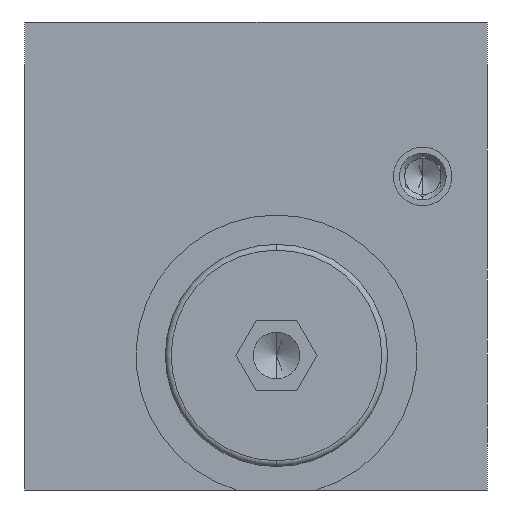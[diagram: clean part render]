
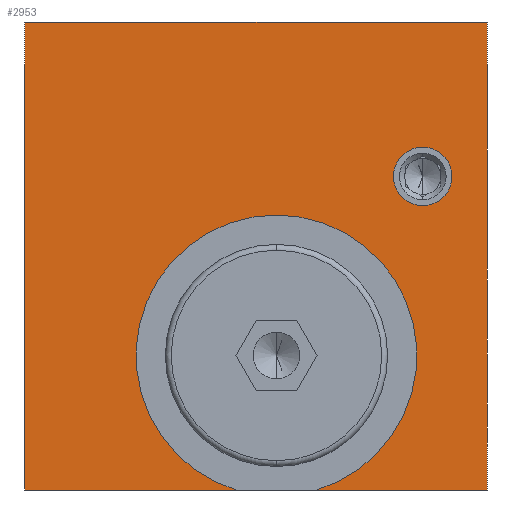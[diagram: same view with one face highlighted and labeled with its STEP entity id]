
A CAD part, left-side view. The second image highlights one B-rep face of the part: STEP entity #2953.
In plain terms, the highlighted planar face has unit normal (-1, 0, 0).
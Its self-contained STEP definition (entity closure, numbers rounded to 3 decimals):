
#114 = FACE_BOUND ( 'NONE', #6787, .T. ) ;
#121 = CARTESIAN_POINT ( 'NONE',  ( 0., 19.75, -20. ) ) ;
#379 = CARTESIAN_POINT ( 'NONE',  ( 0., 1.678, -20. ) ) ;
#463 = VECTOR ( 'NONE', #15114, 1000. ) ;
#649 = CIRCLE ( 'NONE', #9243, 12. ) ;
#829 = CARTESIAN_POINT ( 'NONE',  ( 0., -19.75, -20. ) ) ;
#1205 = VERTEX_POINT ( 'NONE', #16958 ) ;
#1889 = EDGE_CURVE ( 'NONE', #2466, #10732, #2408, .T. ) ;
#2065 = CARTESIAN_POINT ( 'NONE',  ( 0., 19.75, 20. ) ) ;
#2096 = DIRECTION ( 'NONE',  ( 0., 0., 1. ) ) ;
#2294 = DIRECTION ( 'NONE',  ( 0., -1., 0. ) ) ;
#2408 = LINE ( 'NONE', #6635, #5485 ) ;
#2416 = EDGE_CURVE ( 'NONE', #6833, #2887, #3391, .T. ) ;
#2466 = VERTEX_POINT ( 'NONE', #379 ) ;
#2738 = EDGE_CURVE ( 'NONE', #2887, #11333, #6670, .T. ) ;
#2887 = VERTEX_POINT ( 'NONE', #4679 ) ;
#2953 = ADVANCED_FACE ( 'NONE', ( #114, #10126 ), #11946, .T. ) ;
#2988 = VECTOR ( 'NONE', #16269, 1000. ) ;
#3202 = CARTESIAN_POINT ( 'NONE',  ( 0., -19.75, -20. ) ) ;
#3391 = LINE ( 'NONE', #829, #2988 ) ;
#3517 = CARTESIAN_POINT ( 'NONE',  ( 0., -1.75, 3.5 ) ) ;
#4341 = CARTESIAN_POINT ( 'NONE',  ( 0., -1.75, -8.5 ) ) ;
#4633 = AXIS2_PLACEMENT_3D ( 'NONE', #14317, #6481, #15627 ) ;
#4679 = CARTESIAN_POINT ( 'NONE',  ( 0., -5.178, -20. ) ) ;
#4799 = EDGE_LOOP ( 'NONE', ( #8154, #5599, #13417, #4888, #7849, #9652, #10449 ) ) ;
#4803 = DIRECTION ( 'NONE',  ( -1., 0., 0. ) ) ;
#4888 = ORIENTED_EDGE ( 'NONE', *, *, #5884, .F. ) ;
#5485 = VECTOR ( 'NONE', #13171, 1000. ) ;
#5511 = AXIS2_PLACEMENT_3D ( 'NONE', #4341, #13522, #5673 ) ;
#5599 = ORIENTED_EDGE ( 'NONE', *, *, #2416, .F. ) ;
#5667 = DIRECTION ( 'NONE',  ( -1., 0., 0. ) ) ;
#5673 = DIRECTION ( 'NONE',  ( 0., 0., 1. ) ) ;
#5817 = ORIENTED_EDGE ( 'NONE', *, *, #10594, .F. ) ;
#5832 = EDGE_CURVE ( 'NONE', #11333, #2466, #649, .T. ) ;
#5884 = EDGE_CURVE ( 'NONE', #9844, #1205, #12935, .T. ) ;
#5978 = VECTOR ( 'NONE', #2294, 1000. ) ;
#6481 = DIRECTION ( 'NONE',  ( -1., 0., 0. ) ) ;
#6635 = CARTESIAN_POINT ( 'NONE',  ( 0., -19.75, -20. ) ) ;
#6670 = CIRCLE ( 'NONE', #5511, 12. ) ;
#6771 = EDGE_CURVE ( 'NONE', #11463, #13553, #8749, .T. ) ;
#6787 = EDGE_LOOP ( 'NONE', ( #5817, #15819 ) ) ;
#6833 = VERTEX_POINT ( 'NONE', #3202 ) ;
#6880 = CARTESIAN_POINT ( 'NONE',  ( 0., 19.75, -20. ) ) ;
#7274 = CARTESIAN_POINT ( 'NONE',  ( 0., -19.75, 20. ) ) ;
#7402 = LINE ( 'NONE', #9914, #13792 ) ;
#7849 = ORIENTED_EDGE ( 'NONE', *, *, #11750, .F. ) ;
#8154 = ORIENTED_EDGE ( 'NONE', *, *, #2738, .F. ) ;
#8749 = CIRCLE ( 'NONE', #11528, 2.5 ) ;
#8952 = CIRCLE ( 'NONE', #4633, 2.5 ) ;
#9243 = AXIS2_PLACEMENT_3D ( 'NONE', #12643, #4803, #13965 ) ;
#9533 = CARTESIAN_POINT ( 'NONE',  ( 0., -14.25, 9.3 ) ) ;
#9652 = ORIENTED_EDGE ( 'NONE', *, *, #1889, .F. ) ;
#9844 = VERTEX_POINT ( 'NONE', #2065 ) ;
#9914 = CARTESIAN_POINT ( 'NONE',  ( 0., 19.75, 20. ) ) ;
#10116 = CARTESIAN_POINT ( 'NONE',  ( 0., -19.75, 20. ) ) ;
#10126 = FACE_OUTER_BOUND ( 'NONE', #4799, .T. ) ;
#10449 = ORIENTED_EDGE ( 'NONE', *, *, #5832, .F. ) ;
#10594 = EDGE_CURVE ( 'NONE', #13553, #11463, #8952, .T. ) ;
#10732 = VERTEX_POINT ( 'NONE', #6880 ) ;
#11333 = VERTEX_POINT ( 'NONE', #3517 ) ;
#11463 = VERTEX_POINT ( 'NONE', #14493 ) ;
#11528 = AXIS2_PLACEMENT_3D ( 'NONE', #13507, #5667, #14796 ) ;
#11725 = EDGE_CURVE ( 'NONE', #1205, #6833, #13980, .T. ) ;
#11750 = EDGE_CURVE ( 'NONE', #10732, #9844, #7402, .T. ) ;
#11946 = PLANE ( 'NONE',  #16445 ) ;
#12643 = CARTESIAN_POINT ( 'NONE',  ( 0., -1.75, -8.5 ) ) ;
#12935 = LINE ( 'NONE', #10116, #5978 ) ;
#13171 = DIRECTION ( 'NONE',  ( 0., 1., 0. ) ) ;
#13417 = ORIENTED_EDGE ( 'NONE', *, *, #11725, .F. ) ;
#13507 = CARTESIAN_POINT ( 'NONE',  ( 0., -14.25, 6.8 ) ) ;
#13522 = DIRECTION ( 'NONE',  ( -1., 0., 0. ) ) ;
#13553 = VERTEX_POINT ( 'NONE', #9533 ) ;
#13792 = VECTOR ( 'NONE', #2096, 1000. ) ;
#13965 = DIRECTION ( 'NONE',  ( 0., 0., 1. ) ) ;
#13980 = LINE ( 'NONE', #7274, #463 ) ;
#14317 = CARTESIAN_POINT ( 'NONE',  ( 0., -14.25, 6.8 ) ) ;
#14459 = DIRECTION ( 'NONE',  ( 0., 0., 1. ) ) ;
#14493 = CARTESIAN_POINT ( 'NONE',  ( 0., -14.25, 4.3 ) ) ;
#14796 = DIRECTION ( 'NONE',  ( 0., 0., 1. ) ) ;
#15114 = DIRECTION ( 'NONE',  ( 0., 0., -1. ) ) ;
#15627 = DIRECTION ( 'NONE',  ( 0., 0., 1. ) ) ;
#15772 = DIRECTION ( 'NONE',  ( -1., 0., 0. ) ) ;
#15819 = ORIENTED_EDGE ( 'NONE', *, *, #6771, .F. ) ;
#16269 = DIRECTION ( 'NONE',  ( 0., 1., 0. ) ) ;
#16445 = AXIS2_PLACEMENT_3D ( 'NONE', #121, #15772, #14459 ) ;
#16958 = CARTESIAN_POINT ( 'NONE',  ( 0., -19.75, 20. ) ) ;
